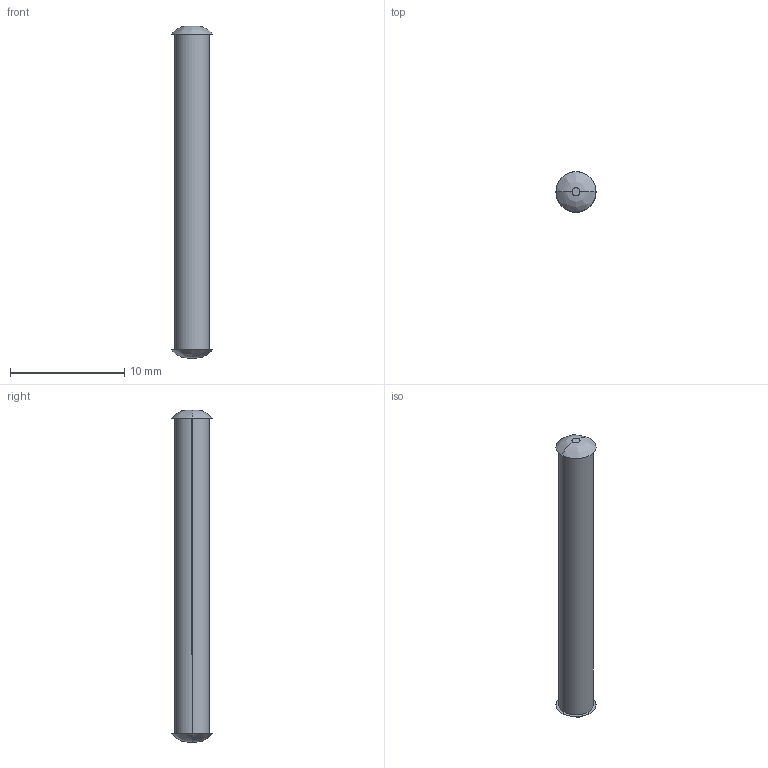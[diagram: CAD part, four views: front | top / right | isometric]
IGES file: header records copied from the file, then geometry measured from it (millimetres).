
Start section: SolidWorks IGES FILE using analytic representation for surfaces
Global section: file name: C:\Documents and Settings\lecoutey\Bureau\GP 16\10.120.10.IGS; native system: SolidWorks 2004 by SolidWorks Corporation; preprocessor: Version 5.3; author: lecoutey; date: 050329.133740; units: millimetre
Bounding box: 3.5 x 3.5 x 29 mm (x, y, z)
Surface area: 288.5 mm2 (no closed solid volume)
Topology: 0 solids, 0 shells, 10 faces, 184 edges, 184 vertices
Faces by surface type: bspline 8, revolution 2
